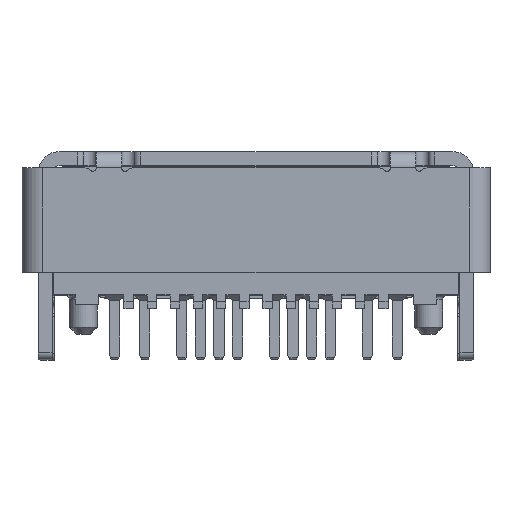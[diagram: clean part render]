
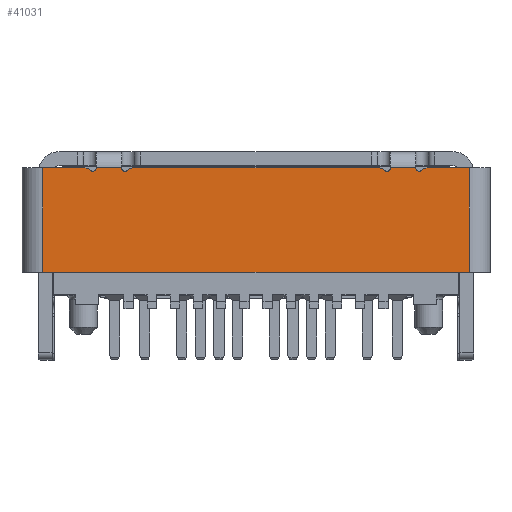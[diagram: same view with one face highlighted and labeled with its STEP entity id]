
A CAD part, top view. The second image highlights one B-rep face of the part: STEP entity #41031.
In plain terms, the highlighted planar face has unit normal (0, 0, 1).
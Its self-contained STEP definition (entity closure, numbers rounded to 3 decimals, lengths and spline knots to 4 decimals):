
#8573=DIRECTION('',(0.,-1.,0.));
#8574=VECTOR('',#8573,2.25);
#8575=CARTESIAN_POINT('',(-4.6,1.23,3.525));
#8576=LINE('',#8575,#8574);
#8581=DIRECTION('',(-1.,0.,0.));
#8582=VECTOR('',#8581,0.9073);
#8583=CARTESIAN_POINT('',(-3.6927,1.23,3.525));
#8584=LINE('',#8583,#8582);
#8585=CARTESIAN_POINT('',(-3.6927,1.08,3.525));
#8586=DIRECTION('',(0.,0.,1.));
#8587=DIRECTION('',(0.745,0.667,0.));
#8588=AXIS2_PLACEMENT_3D('',#8585,#8586,#8587);
#8590=CARTESIAN_POINT('',(-3.525,1.23,3.525));
#8591=DIRECTION('',(0.,0.,-1.));
#8592=DIRECTION('',(1.,0.,0.));
#8593=AXIS2_PLACEMENT_3D('',#8590,#8591,#8592);
#8595=CARTESIAN_POINT('',(-2.825,1.23,3.525));
#8596=DIRECTION('',(0.,0.,-1.));
#8597=DIRECTION('',(0.745,-0.667,0.));
#8598=AXIS2_PLACEMENT_3D('',#8595,#8596,#8597);
#8600=CARTESIAN_POINT('',(-2.6573,1.08,3.525));
#8601=DIRECTION('',(0.,0.,1.));
#8602=DIRECTION('',(0.,1.,0.));
#8603=AXIS2_PLACEMENT_3D('',#8600,#8601,#8602);
#8605=CARTESIAN_POINT('',(2.6573,1.08,3.525));
#8606=DIRECTION('',(0.,0.,1.));
#8607=DIRECTION('',(0.745,0.667,0.));
#8608=AXIS2_PLACEMENT_3D('',#8605,#8606,#8607);
#8610=CARTESIAN_POINT('',(2.825,1.23,3.525));
#8611=DIRECTION('',(0.,0.,-1.));
#8612=DIRECTION('',(1.,0.,0.));
#8613=AXIS2_PLACEMENT_3D('',#8610,#8611,#8612);
#8615=CARTESIAN_POINT('',(3.525,1.23,3.525));
#8616=DIRECTION('',(0.,0.,-1.));
#8617=DIRECTION('',(0.745,-0.667,0.));
#8618=AXIS2_PLACEMENT_3D('',#8615,#8616,#8617);
#8620=CARTESIAN_POINT('',(3.6927,1.08,3.525));
#8621=DIRECTION('',(0.,0.,1.));
#8622=DIRECTION('',(0.,1.,0.));
#8623=AXIS2_PLACEMENT_3D('',#8620,#8621,#8622);
#8625=DIRECTION('',(0.,1.,0.));
#8626=VECTOR('',#8625,2.25);
#8627=CARTESIAN_POINT('',(4.6,-1.02,3.525));
#8628=LINE('',#8627,#8626);
#8665=DIRECTION('',(-1.,0.,0.));
#8666=VECTOR('',#8665,9.2);
#8667=CARTESIAN_POINT('',(4.6,-1.02,3.525));
#8668=LINE('',#8667,#8666);
#8708=DIRECTION('',(1.,0.,0.));
#8709=VECTOR('',#8708,0.9073);
#8710=CARTESIAN_POINT('',(3.6927,1.23,3.525));
#8711=LINE('',#8710,#8709);
#9131=DIRECTION('',(1.,0.,0.));
#9132=VECTOR('',#9131,5.3146);
#9133=CARTESIAN_POINT('',(-2.6573,1.23,3.525));
#9134=LINE('',#9133,#9132);
#9147=DIRECTION('',(-1.,0.,0.));
#9148=VECTOR('',#9147,0.55);
#9149=CARTESIAN_POINT('',(-2.9,1.23,3.525));
#9150=LINE('',#9149,#9148);
#9187=DIRECTION('',(-1.,0.,0.));
#9188=VECTOR('',#9187,0.55);
#9189=CARTESIAN_POINT('',(3.45,1.23,3.525));
#9190=LINE('',#9189,#9188);
#21546=CARTESIAN_POINT('',(-3.45,1.23,3.525));
#21548=VERTEX_POINT('',#21546);
#21552=CARTESIAN_POINT('',(-3.5809,1.18,3.525));
#21553=VERTEX_POINT('',#21552);
#21587=CARTESIAN_POINT('',(-4.6,1.23,3.525));
#21589=VERTEX_POINT('',#21587);
#21596=CARTESIAN_POINT('',(-3.6927,1.23,3.525));
#21597=VERTEX_POINT('',#21596);
#21598=CARTESIAN_POINT('',(-4.6,-1.02,3.525));
#21599=VERTEX_POINT('',#21598);
#21602=CARTESIAN_POINT('',(4.6,-1.02,3.525));
#21603=CARTESIAN_POINT('',(4.6,1.23,3.525));
#21604=VERTEX_POINT('',#21602);
#21605=VERTEX_POINT('',#21603);
#21606=CARTESIAN_POINT('',(-2.9,1.23,3.525));
#21607=VERTEX_POINT('',#21606);
#21608=CARTESIAN_POINT('',(-2.7691,1.18,3.525));
#21609=VERTEX_POINT('',#21608);
#21610=CARTESIAN_POINT('',(-2.6573,1.23,3.525));
#21611=VERTEX_POINT('',#21610);
#21612=CARTESIAN_POINT('',(2.6573,1.23,3.525));
#21613=VERTEX_POINT('',#21612);
#21614=CARTESIAN_POINT('',(2.7691,1.18,3.525));
#21615=VERTEX_POINT('',#21614);
#21616=CARTESIAN_POINT('',(2.9,1.23,3.525));
#21617=VERTEX_POINT('',#21616);
#21618=CARTESIAN_POINT('',(3.45,1.23,3.525));
#21619=VERTEX_POINT('',#21618);
#21620=CARTESIAN_POINT('',(3.5809,1.18,3.525));
#21621=VERTEX_POINT('',#21620);
#21622=CARTESIAN_POINT('',(3.6927,1.23,3.525));
#21623=VERTEX_POINT('',#21622);
#40995=CARTESIAN_POINT('',(0.,0.105,3.525));
#40996=DIRECTION('',(0.,0.,1.));
#40997=DIRECTION('',(1.,0.,0.));
#40998=AXIS2_PLACEMENT_3D('',#40995,#40996,#40997);
#40999=PLANE('',#40998);
#41001=ORIENTED_EDGE('',*,*,#41000,.F.);
#41003=ORIENTED_EDGE('',*,*,#41002,.T.);
#41004=ORIENTED_EDGE('',*,*,#40979,.F.);
#41005=ORIENTED_EDGE('',*,*,#40961,.F.);
#41007=ORIENTED_EDGE('',*,*,#41006,.F.);
#41009=ORIENTED_EDGE('',*,*,#41008,.F.);
#41011=ORIENTED_EDGE('',*,*,#41010,.F.);
#41013=ORIENTED_EDGE('',*,*,#41012,.F.);
#41015=ORIENTED_EDGE('',*,*,#41014,.F.);
#41017=ORIENTED_EDGE('',*,*,#41016,.T.);
#41019=ORIENTED_EDGE('',*,*,#41018,.F.);
#41020=ORIENTED_EDGE('',*,*,#40861,.F.);
#41022=ORIENTED_EDGE('',*,*,#41021,.F.);
#41024=ORIENTED_EDGE('',*,*,#41023,.F.);
#41026=ORIENTED_EDGE('',*,*,#41025,.F.);
#41028=ORIENTED_EDGE('',*,*,#41027,.T.);
#41029=EDGE_LOOP('',(#41001,#41003,#41004,#41005,#41007,#41009,#41011,#41013,
#41015,#41017,#41019,#41020,#41022,#41024,#41026,#41028));
#41030=FACE_OUTER_BOUND('',#41029,.F.);
#41031=ADVANCED_FACE('',(#41030),#40999,.T.);
#8589=CIRCLE('',#8588,0.15);
#8594=CIRCLE('',#8593,0.075);
#8599=CIRCLE('',#8598,0.075);
#8604=CIRCLE('',#8603,0.15);
#8609=CIRCLE('',#8608,0.15);
#8614=CIRCLE('',#8613,0.075);
#8619=CIRCLE('',#8618,0.075);
#8624=CIRCLE('',#8623,0.15);
#40861=EDGE_CURVE('',#21617,#21615,#8614,.T.);
#40961=EDGE_CURVE('',#21597,#21589,#8584,.T.);
#40979=EDGE_CURVE('',#21589,#21599,#8576,.T.);
#41000=EDGE_CURVE('',#21604,#21605,#8628,.T.);
#41002=EDGE_CURVE('',#21604,#21599,#8668,.T.);
#41006=EDGE_CURVE('',#21553,#21597,#8589,.T.);
#41008=EDGE_CURVE('',#21548,#21553,#8594,.T.);
#41010=EDGE_CURVE('',#21607,#21548,#9150,.T.);
#41012=EDGE_CURVE('',#21609,#21607,#8599,.T.);
#41014=EDGE_CURVE('',#21611,#21609,#8604,.T.);
#41016=EDGE_CURVE('',#21611,#21613,#9134,.T.);
#41018=EDGE_CURVE('',#21615,#21613,#8609,.T.);
#41021=EDGE_CURVE('',#21619,#21617,#9190,.T.);
#41023=EDGE_CURVE('',#21621,#21619,#8619,.T.);
#41025=EDGE_CURVE('',#21623,#21621,#8624,.T.);
#41027=EDGE_CURVE('',#21623,#21605,#8711,.T.);
